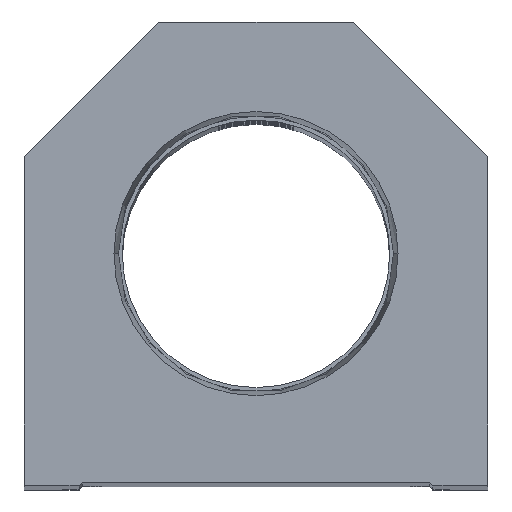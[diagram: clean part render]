
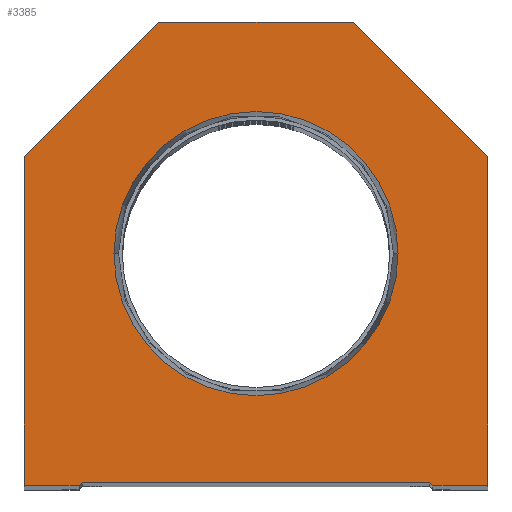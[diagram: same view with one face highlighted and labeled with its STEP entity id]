
A CAD part, top view. The second image highlights one B-rep face of the part: STEP entity #3385.
In plain terms, the highlighted planar face has unit normal (0, 0, 1).
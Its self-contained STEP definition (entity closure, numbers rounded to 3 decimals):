
#6 = EDGE_CURVE ( 'NONE', #13372, #14132, #9599, .T. ) ;
#75 = LINE ( 'NONE', #8228, #9210 ) ;
#184 = DIRECTION ( 'NONE',  ( 0., -1., 0. ) ) ;
#213 = DIRECTION ( 'NONE',  ( 1., 0., 0. ) ) ;
#276 = EDGE_CURVE ( 'NONE', #12955, #19368, #12365, .T. ) ;
#418 = VERTEX_POINT ( 'NONE', #733 ) ;
#592 = LINE ( 'NONE', #1967, #5286 ) ;
#733 = CARTESIAN_POINT ( 'NONE',  ( -28.6, 0.5, 0. ) ) ;
#1382 = VERTEX_POINT ( 'NONE', #16962 ) ;
#1471 = FACE_OUTER_BOUND ( 'NONE', #14975, .T. ) ;
#1967 = CARTESIAN_POINT ( 'NONE',  ( 16., 76.2, 0. ) ) ;
#2151 = CARTESIAN_POINT ( 'NONE',  ( -38.1, 54.1, 0. ) ) ;
#2791 = DIRECTION ( 'NONE',  ( 1., 0., 0. ) ) ;
#3032 = EDGE_LOOP ( 'NONE', ( #6578, #19769 ) ) ;
#3385 = ADVANCED_FACE ( 'NONE', ( #14494, #1471 ), #17786, .T. ) ;
#3411 = EDGE_CURVE ( 'NONE', #14132, #13372, #5637, .T. ) ;
#3692 = VECTOR ( 'NONE', #6835, 1000. ) ;
#3704 = EDGE_CURVE ( 'NONE', #19665, #1382, #592, .T. ) ;
#3728 = ORIENTED_EDGE ( 'NONE', *, *, #3704, .T. ) ;
#4245 = CARTESIAN_POINT ( 'NONE',  ( 38.1, 0., 0. ) ) ;
#4248 = ORIENTED_EDGE ( 'NONE', *, *, #17568, .T. ) ;
#4255 = CARTESIAN_POINT ( 'NONE',  ( 38.1, 54.1, 0. ) ) ;
#4362 = CARTESIAN_POINT ( 'NONE',  ( 28.6, 0.5, 0. ) ) ;
#4464 = VERTEX_POINT ( 'NONE', #12297 ) ;
#4490 = ORIENTED_EDGE ( 'NONE', *, *, #15943, .T. ) ;
#4865 = CARTESIAN_POINT ( 'NONE',  ( 0., 0., 0. ) ) ;
#4988 = ORIENTED_EDGE ( 'NONE', *, *, #276, .T. ) ;
#5219 = EDGE_CURVE ( 'NONE', #15417, #4464, #75, .T. ) ;
#5286 = VECTOR ( 'NONE', #11673, 1000. ) ;
#5347 = CARTESIAN_POINT ( 'NONE',  ( 16., 76.2, 0. ) ) ;
#5637 = CIRCLE ( 'NONE', #20636, 23.374 ) ;
#5744 = EDGE_CURVE ( 'NONE', #16828, #7315, #15361, .T. ) ;
#6061 = LINE ( 'NONE', #4255, #18612 ) ;
#6243 = DIRECTION ( 'NONE',  ( 1., 0., 0. ) ) ;
#6357 = CARTESIAN_POINT ( 'NONE',  ( 0., 38.1, 0. ) ) ;
#6578 = ORIENTED_EDGE ( 'NONE', *, *, #6, .F. ) ;
#6835 = DIRECTION ( 'NONE',  ( 0.707, 0.707, 0. ) ) ;
#7187 = CARTESIAN_POINT ( 'NONE',  ( -38.1, 54.1, 0. ) ) ;
#7315 = VERTEX_POINT ( 'NONE', #13171 ) ;
#7505 = EDGE_CURVE ( 'NONE', #9975, #418, #8641, .T. ) ;
#8067 = LINE ( 'NONE', #17482, #8487 ) ;
#8228 = CARTESIAN_POINT ( 'NONE',  ( -38.1, 0., 0. ) ) ;
#8333 = VECTOR ( 'NONE', #19996, 1000. ) ;
#8487 = VECTOR ( 'NONE', #19190, 1000. ) ;
#8527 = CARTESIAN_POINT ( 'NONE',  ( 23.374, 38.1, 0. ) ) ;
#8543 = DIRECTION ( 'NONE',  ( 1., 0., 0. ) ) ;
#8561 = CARTESIAN_POINT ( 'NONE',  ( -28.6, 0., 0. ) ) ;
#8641 = LINE ( 'NONE', #15178, #3692 ) ;
#8912 = VECTOR ( 'NONE', #9242, 1000. ) ;
#9210 = VECTOR ( 'NONE', #184, 1000. ) ;
#9242 = DIRECTION ( 'NONE',  ( 0., 1., 0. ) ) ;
#9498 = EDGE_CURVE ( 'NONE', #418, #16828, #8067, .T. ) ;
#9599 = CIRCLE ( 'NONE', #19148, 23.374 ) ;
#9710 = AXIS2_PLACEMENT_3D ( 'NONE', #4865, #14813, #6243 ) ;
#9975 = VERTEX_POINT ( 'NONE', #16786 ) ;
#10283 = CARTESIAN_POINT ( 'NONE',  ( 38.1, 54.1, 0. ) ) ;
#11389 = DIRECTION ( 'NONE',  ( 0., 0., 1. ) ) ;
#11673 = DIRECTION ( 'NONE',  ( -1., 0., 0. ) ) ;
#11944 = DIRECTION ( 'NONE',  ( 0.707, -0.707, 0. ) ) ;
#12297 = CARTESIAN_POINT ( 'NONE',  ( -38.1, 0., 0. ) ) ;
#12365 = LINE ( 'NONE', #4245, #8912 ) ;
#12403 = VECTOR ( 'NONE', #2791, 1000. ) ;
#12955 = VERTEX_POINT ( 'NONE', #17843 ) ;
#13171 = CARTESIAN_POINT ( 'NONE',  ( 29.1, 0., 0. ) ) ;
#13372 = VERTEX_POINT ( 'NONE', #8527 ) ;
#14010 = LINE ( 'NONE', #17106, #12403 ) ;
#14132 = VERTEX_POINT ( 'NONE', #17707 ) ;
#14199 = DIRECTION ( 'NONE',  ( -0.707, 0.707, 0. ) ) ;
#14494 = FACE_BOUND ( 'NONE', #3032, .T. ) ;
#14559 = ORIENTED_EDGE ( 'NONE', *, *, #7505, .T. ) ;
#14606 = ORIENTED_EDGE ( 'NONE', *, *, #9498, .T. ) ;
#14813 = DIRECTION ( 'NONE',  ( 0., 0., 1. ) ) ;
#14974 = EDGE_CURVE ( 'NONE', #4464, #9975, #16706, .T. ) ;
#14975 = EDGE_LOOP ( 'NONE', ( #18481, #14559, #14606, #19927, #4248, #4988, #4490, #3728, #16882, #20323 ) ) ;
#15178 = CARTESIAN_POINT ( 'NONE',  ( -14.55, 14.55, 0. ) ) ;
#15361 = LINE ( 'NONE', #18359, #15371 ) ;
#15371 = VECTOR ( 'NONE', #11944, 1000. ) ;
#15417 = VERTEX_POINT ( 'NONE', #7187 ) ;
#15943 = EDGE_CURVE ( 'NONE', #19368, #19665, #6061, .T. ) ;
#16382 = DIRECTION ( 'NONE',  ( 0., 0., 1. ) ) ;
#16478 = CARTESIAN_POINT ( 'NONE',  ( 0., 38.1, 0. ) ) ;
#16706 = LINE ( 'NONE', #8561, #8333 ) ;
#16773 = LINE ( 'NONE', #2151, #20309 ) ;
#16786 = CARTESIAN_POINT ( 'NONE',  ( -29.1, 0., 0. ) ) ;
#16828 = VERTEX_POINT ( 'NONE', #4362 ) ;
#16882 = ORIENTED_EDGE ( 'NONE', *, *, #19732, .T. ) ;
#16962 = CARTESIAN_POINT ( 'NONE',  ( -16., 76.2, 0. ) ) ;
#17106 = CARTESIAN_POINT ( 'NONE',  ( 28.6, 0., 0. ) ) ;
#17482 = CARTESIAN_POINT ( 'NONE',  ( -28.6, 0.5, 0. ) ) ;
#17568 = EDGE_CURVE ( 'NONE', #7315, #12955, #14010, .T. ) ;
#17707 = CARTESIAN_POINT ( 'NONE',  ( -23.374, 38.1, 0. ) ) ;
#17786 = PLANE ( 'NONE',  #9710 ) ;
#17843 = CARTESIAN_POINT ( 'NONE',  ( 38.1, 0., 0. ) ) ;
#18359 = CARTESIAN_POINT ( 'NONE',  ( 14.55, 14.55, 0. ) ) ;
#18481 = ORIENTED_EDGE ( 'NONE', *, *, #14974, .T. ) ;
#18612 = VECTOR ( 'NONE', #14199, 1000. ) ;
#19148 = AXIS2_PLACEMENT_3D ( 'NONE', #16478, #16382, #8543 ) ;
#19190 = DIRECTION ( 'NONE',  ( 1., 0., 0. ) ) ;
#19368 = VERTEX_POINT ( 'NONE', #10283 ) ;
#19665 = VERTEX_POINT ( 'NONE', #5347 ) ;
#19732 = EDGE_CURVE ( 'NONE', #1382, #15417, #16773, .T. ) ;
#19761 = DIRECTION ( 'NONE',  ( -0.707, -0.707, 0. ) ) ;
#19769 = ORIENTED_EDGE ( 'NONE', *, *, #3411, .F. ) ;
#19927 = ORIENTED_EDGE ( 'NONE', *, *, #5744, .T. ) ;
#19996 = DIRECTION ( 'NONE',  ( 1., 0., 0. ) ) ;
#20309 = VECTOR ( 'NONE', #19761, 1000. ) ;
#20323 = ORIENTED_EDGE ( 'NONE', *, *, #5219, .T. ) ;
#20636 = AXIS2_PLACEMENT_3D ( 'NONE', #6357, #11389, #213 ) ;
